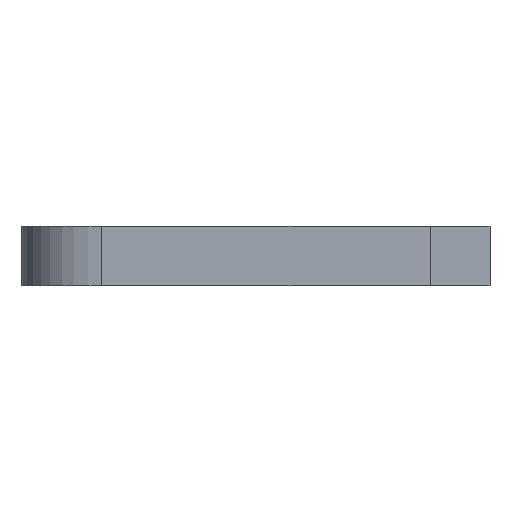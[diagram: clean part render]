
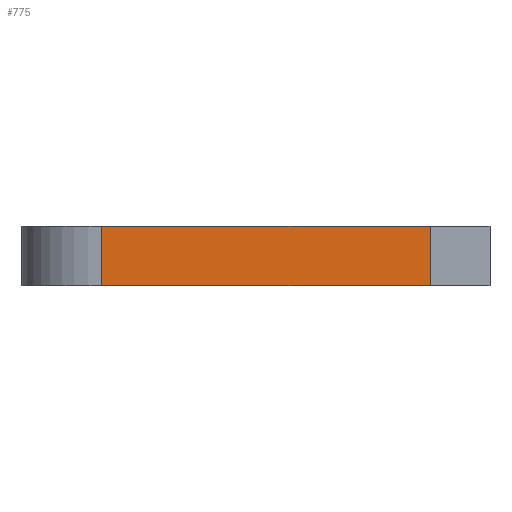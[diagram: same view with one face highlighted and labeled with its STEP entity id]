
A CAD part, left-side view. The second image highlights one B-rep face of the part: STEP entity #775.
In plain terms, the highlighted planar face has unit normal (-1, 0, 0).
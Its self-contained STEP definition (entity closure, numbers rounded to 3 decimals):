
#32 = PLANE('',#33);
#33 = AXIS2_PLACEMENT_3D('',#34,#35,#36);
#34 = CARTESIAN_POINT('',(0.,6.,6.));
#35 = DIRECTION('',(0.,0.,1.));
#36 = DIRECTION('',(1.,0.,0.));
#57 = VERTEX_POINT('',#58);
#58 = CARTESIAN_POINT('',(0.,39.,6.));
#73 = CYLINDRICAL_SURFACE('',#74,8.);
#74 = AXIS2_PLACEMENT_3D('',#75,#76,#77);
#75 = CARTESIAN_POINT('',(8.,39.,0.));
#76 = DIRECTION('',(0.,0.,1.));
#77 = DIRECTION('',(0.,1.,0.));
#85 = EDGE_CURVE('',#86,#57,#88,.T.);
#86 = VERTEX_POINT('',#87);
#87 = CARTESIAN_POINT('',(0.,6.,6.));
#88 = SURFACE_CURVE('',#89,(#93,#100),.PCURVE_S1.);
#89 = LINE('',#90,#91);
#90 = CARTESIAN_POINT('',(0.,6.,6.));
#91 = VECTOR('',#92,1.);
#92 = DIRECTION('',(0.,1.,0.));
#93 = PCURVE('',#32,#94);
#94 = DEFINITIONAL_REPRESENTATION('',(#95),#99);
#95 = LINE('',#96,#97);
#96 = CARTESIAN_POINT('',(0.,0.));
#97 = VECTOR('',#98,1.);
#98 = DIRECTION('',(0.,1.));
#99 = ( GEOMETRIC_REPRESENTATION_CONTEXT(2) 
PARAMETRIC_REPRESENTATION_CONTEXT() REPRESENTATION_CONTEXT('2D SPACE',''
  ) );
#100 = PCURVE('',#101,#106);
#101 = PLANE('',#102);
#102 = AXIS2_PLACEMENT_3D('',#103,#104,#105);
#103 = CARTESIAN_POINT('',(0.,6.,0.));
#104 = DIRECTION('',(1.,0.,0.));
#105 = DIRECTION('',(0.,0.,1.));
#106 = DEFINITIONAL_REPRESENTATION('',(#107),#111);
#107 = LINE('',#108,#109);
#108 = CARTESIAN_POINT('',(6.,0.));
#109 = VECTOR('',#110,1.);
#110 = DIRECTION('',(0.,-1.));
#111 = ( GEOMETRIC_REPRESENTATION_CONTEXT(2) 
PARAMETRIC_REPRESENTATION_CONTEXT() REPRESENTATION_CONTEXT('2D SPACE',''
  ) );
#129 = PLANE('',#130);
#130 = AXIS2_PLACEMENT_3D('',#131,#132,#133);
#131 = CARTESIAN_POINT('',(0.,6.,0.));
#132 = DIRECTION('',(0.,1.,0.));
#133 = DIRECTION('',(0.,0.,1.));
#621 = PLANE('',#622);
#622 = AXIS2_PLACEMENT_3D('',#623,#624,#625);
#623 = CARTESIAN_POINT('',(0.,6.,0.));
#624 = DIRECTION('',(0.,0.,1.));
#625 = DIRECTION('',(1.,0.,0.));
#680 = VERTEX_POINT('',#681);
#681 = CARTESIAN_POINT('',(0.,39.,0.));
#703 = EDGE_CURVE('',#680,#57,#704,.T.);
#704 = SURFACE_CURVE('',#705,(#709,#716),.PCURVE_S1.);
#705 = LINE('',#706,#707);
#706 = CARTESIAN_POINT('',(0.,39.,0.));
#707 = VECTOR('',#708,1.);
#708 = DIRECTION('',(0.,0.,1.));
#709 = PCURVE('',#73,#710);
#710 = DEFINITIONAL_REPRESENTATION('',(#711),#715);
#711 = LINE('',#712,#713);
#712 = CARTESIAN_POINT('',(1.571,0.));
#713 = VECTOR('',#714,1.);
#714 = DIRECTION('',(0.,1.));
#715 = ( GEOMETRIC_REPRESENTATION_CONTEXT(2) 
PARAMETRIC_REPRESENTATION_CONTEXT() REPRESENTATION_CONTEXT('2D SPACE',''
  ) );
#716 = PCURVE('',#101,#717);
#717 = DEFINITIONAL_REPRESENTATION('',(#718),#722);
#718 = LINE('',#719,#720);
#719 = CARTESIAN_POINT('',(0.,-33.));
#720 = VECTOR('',#721,1.);
#721 = DIRECTION('',(1.,0.));
#722 = ( GEOMETRIC_REPRESENTATION_CONTEXT(2) 
PARAMETRIC_REPRESENTATION_CONTEXT() REPRESENTATION_CONTEXT('2D SPACE',''
  ) );
#775 = ADVANCED_FACE('',(#776),#101,.F.);
#776 = FACE_BOUND('',#777,.F.);
#777 = EDGE_LOOP('',(#778,#779,#802,#823));
#778 = ORIENTED_EDGE('',*,*,#85,.F.);
#779 = ORIENTED_EDGE('',*,*,#780,.F.);
#780 = EDGE_CURVE('',#781,#86,#783,.T.);
#781 = VERTEX_POINT('',#782);
#782 = CARTESIAN_POINT('',(0.,6.,0.));
#783 = SURFACE_CURVE('',#784,(#788,#795),.PCURVE_S1.);
#784 = LINE('',#785,#786);
#785 = CARTESIAN_POINT('',(0.,6.,0.));
#786 = VECTOR('',#787,1.);
#787 = DIRECTION('',(0.,0.,1.));
#788 = PCURVE('',#101,#789);
#789 = DEFINITIONAL_REPRESENTATION('',(#790),#794);
#790 = LINE('',#791,#792);
#791 = CARTESIAN_POINT('',(0.,0.));
#792 = VECTOR('',#793,1.);
#793 = DIRECTION('',(1.,0.));
#794 = ( GEOMETRIC_REPRESENTATION_CONTEXT(2) 
PARAMETRIC_REPRESENTATION_CONTEXT() REPRESENTATION_CONTEXT('2D SPACE',''
  ) );
#795 = PCURVE('',#129,#796);
#796 = DEFINITIONAL_REPRESENTATION('',(#797),#801);
#797 = LINE('',#798,#799);
#798 = CARTESIAN_POINT('',(0.,0.));
#799 = VECTOR('',#800,1.);
#800 = DIRECTION('',(1.,0.));
#801 = ( GEOMETRIC_REPRESENTATION_CONTEXT(2) 
PARAMETRIC_REPRESENTATION_CONTEXT() REPRESENTATION_CONTEXT('2D SPACE',''
  ) );
#802 = ORIENTED_EDGE('',*,*,#803,.T.);
#803 = EDGE_CURVE('',#781,#680,#804,.T.);
#804 = SURFACE_CURVE('',#805,(#809,#816),.PCURVE_S1.);
#805 = LINE('',#806,#807);
#806 = CARTESIAN_POINT('',(0.,6.,0.));
#807 = VECTOR('',#808,1.);
#808 = DIRECTION('',(0.,1.,0.));
#809 = PCURVE('',#101,#810);
#810 = DEFINITIONAL_REPRESENTATION('',(#811),#815);
#811 = LINE('',#812,#813);
#812 = CARTESIAN_POINT('',(0.,0.));
#813 = VECTOR('',#814,1.);
#814 = DIRECTION('',(0.,-1.));
#815 = ( GEOMETRIC_REPRESENTATION_CONTEXT(2) 
PARAMETRIC_REPRESENTATION_CONTEXT() REPRESENTATION_CONTEXT('2D SPACE',''
  ) );
#816 = PCURVE('',#621,#817);
#817 = DEFINITIONAL_REPRESENTATION('',(#818),#822);
#818 = LINE('',#819,#820);
#819 = CARTESIAN_POINT('',(0.,0.));
#820 = VECTOR('',#821,1.);
#821 = DIRECTION('',(0.,1.));
#822 = ( GEOMETRIC_REPRESENTATION_CONTEXT(2) 
PARAMETRIC_REPRESENTATION_CONTEXT() REPRESENTATION_CONTEXT('2D SPACE',''
  ) );
#823 = ORIENTED_EDGE('',*,*,#703,.T.);
